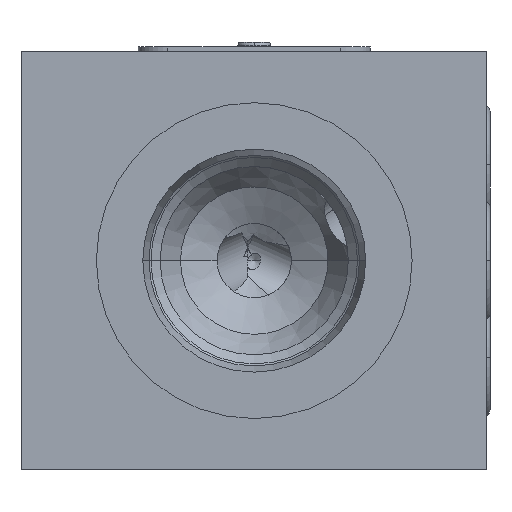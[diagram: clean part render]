
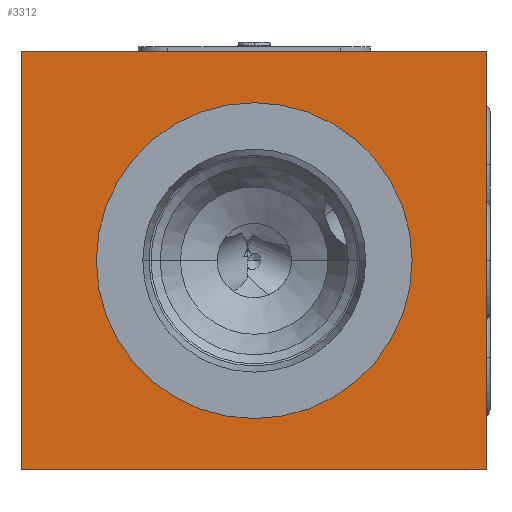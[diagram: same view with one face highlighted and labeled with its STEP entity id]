
A CAD part, left-side view. The second image highlights one B-rep face of the part: STEP entity #3312.
In plain terms, the highlighted planar face has unit normal (-1, 0, 0).
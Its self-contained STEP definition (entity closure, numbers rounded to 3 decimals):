
#55=DIRECTION('',(0.,0.,-1.));
#56=VECTOR('',#55,45.);
#57=CARTESIAN_POINT('',(0.,0.,0.));
#58=LINE('',#57,#56);
#62=DIRECTION('',(0.,1.,0.));
#63=VECTOR('',#62,50.);
#64=CARTESIAN_POINT('',(0.,0.,-45.));
#65=LINE('',#64,#63);
#69=DIRECTION('',(0.,0.,1.));
#70=VECTOR('',#69,45.);
#71=CARTESIAN_POINT('',(0.,50.,-45.));
#72=LINE('',#71,#70);
#76=DIRECTION('',(0.,-1.,0.));
#77=VECTOR('',#76,50.);
#78=CARTESIAN_POINT('',(0.,50.,0.));
#79=LINE('',#78,#77);
#83=CARTESIAN_POINT('',(0.,25.,-22.5));
#84=DIRECTION('',(1.,0.,0.));
#85=DIRECTION('',(0.,-1.,0.));
#86=AXIS2_PLACEMENT_3D('',#83,#84,#85);
#91=CARTESIAN_POINT('',(0.,25.,-22.5));
#92=DIRECTION('',(1.,0.,0.));
#93=DIRECTION('',(0.,1.,0.));
#94=AXIS2_PLACEMENT_3D('',#91,#92,#93);
#2994=CARTESIAN_POINT('',(0.,0.,0.));
#2995=CARTESIAN_POINT('',(0.,0.,-45.));
#2996=VERTEX_POINT('',#2994);
#2997=VERTEX_POINT('',#2995);
#2998=CARTESIAN_POINT('',(0.,50.,-45.));
#2999=VERTEX_POINT('',#2998);
#3000=CARTESIAN_POINT('',(0.,50.,0.));
#3001=VERTEX_POINT('',#3000);
#3199=CARTESIAN_POINT('',(0.,8.,-22.5));
#3200=VERTEX_POINT('',#3199);
#3201=CARTESIAN_POINT('',(0.,42.,-22.5));
#3202=VERTEX_POINT('',#3201);
#3291=CARTESIAN_POINT('',(0.,0.,0.));
#3292=DIRECTION('',(1.,0.,0.));
#3293=DIRECTION('',(0.,0.,-1.));
#3294=AXIS2_PLACEMENT_3D('',#3291,#3292,#3293);
#3295=PLANE('',#3294);
#3297=ORIENTED_EDGE('',*,*,#3296,.T.);
#3299=ORIENTED_EDGE('',*,*,#3298,.T.);
#3301=ORIENTED_EDGE('',*,*,#3300,.T.);
#3303=ORIENTED_EDGE('',*,*,#3302,.T.);
#3304=EDGE_LOOP('',(#3297,#3299,#3301,#3303));
#3305=FACE_OUTER_BOUND('',#3304,.F.);
#3307=ORIENTED_EDGE('',*,*,#3306,.F.);
#3309=ORIENTED_EDGE('',*,*,#3308,.F.);
#3310=EDGE_LOOP('',(#3307,#3309));
#3311=FACE_BOUND('',#3310,.F.);
#87=CIRCLE('',#86,17.);
#95=CIRCLE('',#94,17.);
#3296=EDGE_CURVE('',#2996,#2997,#58,.T.);
#3298=EDGE_CURVE('',#2997,#2999,#65,.T.);
#3300=EDGE_CURVE('',#2999,#3001,#72,.T.);
#3302=EDGE_CURVE('',#3001,#2996,#79,.T.);
#3306=EDGE_CURVE('',#3200,#3202,#87,.T.);
#3308=EDGE_CURVE('',#3202,#3200,#95,.T.);
#3312=ADVANCED_FACE('',(#3305,#3311),#3295,.F.);
